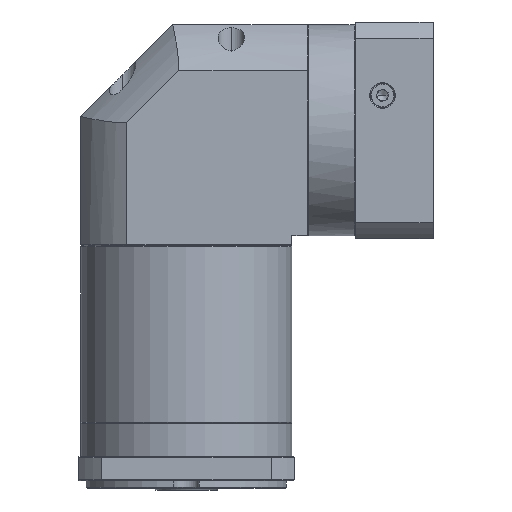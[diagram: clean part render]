
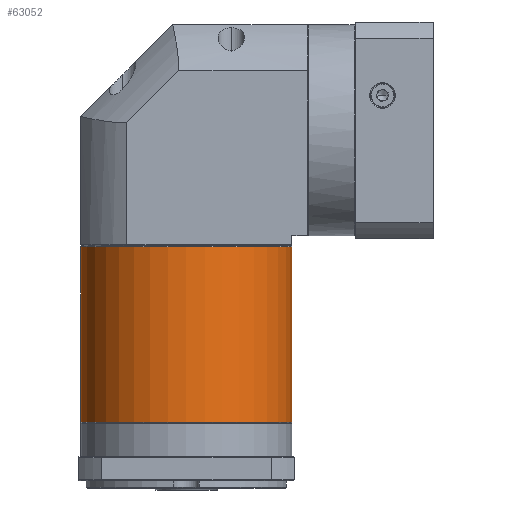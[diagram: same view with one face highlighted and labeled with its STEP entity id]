
A CAD part, front view. The second image highlights one B-rep face of the part: STEP entity #63052.
In plain terms, the highlighted cylindrical face has radius 57.5 mm (diameter 115 mm), a partial arc.
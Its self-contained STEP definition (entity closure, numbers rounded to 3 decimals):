
#3833 = DIRECTION ( 'NONE',  ( 0., 0., -1. ) ) ;
#4235 = CYLINDRICAL_SURFACE ( 'NONE', #99347, 57.5 ) ;
#5245 = ORIENTED_EDGE ( 'NONE', *, *, #46861, .T. ) ;
#7678 = VECTOR ( 'NONE', #105373, 1000. ) ;
#14977 = ORIENTED_EDGE ( 'NONE', *, *, #86398, .T. ) ;
#23151 = DIRECTION ( 'NONE',  ( -1., 0., 0. ) ) ;
#28302 = DIRECTION ( 'NONE',  ( -1., 0., 0. ) ) ;
#29166 = LINE ( 'NONE', #59874, #55589 ) ;
#30092 = VERTEX_POINT ( 'NONE', #54989 ) ;
#30505 = CARTESIAN_POINT ( 'NONE',  ( -17.638, 57.32, -60.85 ) ) ;
#31262 = DIRECTION ( 'NONE',  ( 0., 0., -1. ) ) ;
#32256 = CIRCLE ( 'NONE', #48821, 57.5 ) ;
#32554 = ORIENTED_EDGE ( 'NONE', *, *, #44404, .T. ) ;
#34238 = VERTEX_POINT ( 'NONE', #30505 ) ;
#35656 = VERTEX_POINT ( 'NONE', #92849 ) ;
#42091 = CARTESIAN_POINT ( 'NONE',  ( 39.862, 57.32, -156.562 ) ) ;
#43450 = CARTESIAN_POINT ( 'NONE',  ( 39.862, -0.18, -60.85 ) ) ;
#44404 = EDGE_CURVE ( 'NONE', #35656, #80394, #106988, .T. ) ;
#46861 = EDGE_CURVE ( 'NONE', #80394, #34238, #32256, .T. ) ;
#48821 = AXIS2_PLACEMENT_3D ( 'NONE', #123210, #53075, #23151 ) ;
#52683 = LINE ( 'NONE', #126092, #7678 ) ;
#53075 = DIRECTION ( 'NONE',  ( 0., 0., -1. ) ) ;
#54938 = VERTEX_POINT ( 'NONE', #70280 ) ;
#54989 = CARTESIAN_POINT ( 'NONE',  ( -17.638, 57.32, -156.562 ) ) ;
#55589 = VECTOR ( 'NONE', #31262, 1000. ) ;
#59874 = CARTESIAN_POINT ( 'NONE',  ( -17.638, 57.32, -60.35 ) ) ;
#63052 = ADVANCED_FACE ( 'NONE', ( #64891 ), #4235, .T. ) ;
#64891 = FACE_OUTER_BOUND ( 'NONE', #89247, .T. ) ;
#70280 = CARTESIAN_POINT ( 'NONE',  ( 97.362, 57.32, -156.562 ) ) ;
#71341 = EDGE_CURVE ( 'NONE', #35656, #54938, #52683, .T. ) ;
#74898 = DIRECTION ( 'NONE',  ( -1., 0., 0. ) ) ;
#77884 = AXIS2_PLACEMENT_3D ( 'NONE', #42091, #81123, #120432 ) ;
#80394 = VERTEX_POINT ( 'NONE', #43450 ) ;
#81123 = DIRECTION ( 'NONE',  ( 0., 0., 1. ) ) ;
#83621 = CARTESIAN_POINT ( 'NONE',  ( 39.862, 57.32, -60.85 ) ) ;
#85620 = EDGE_CURVE ( 'NONE', #34238, #30092, #29166, .T. ) ;
#86398 = EDGE_CURVE ( 'NONE', #30092, #54938, #124916, .T. ) ;
#89247 = EDGE_LOOP ( 'NONE', ( #103680, #32554, #5245, #114558, #14977 ) ) ;
#90831 = AXIS2_PLACEMENT_3D ( 'NONE', #83621, #3833, #74898 ) ;
#92849 = CARTESIAN_POINT ( 'NONE',  ( 97.362, 57.32, -60.85 ) ) ;
#99347 = AXIS2_PLACEMENT_3D ( 'NONE', #113715, #126657, #28302 ) ;
#103680 = ORIENTED_EDGE ( 'NONE', *, *, #71341, .F. ) ;
#105373 = DIRECTION ( 'NONE',  ( 0., 0., -1. ) ) ;
#106988 = CIRCLE ( 'NONE', #90831, 57.5 ) ;
#113715 = CARTESIAN_POINT ( 'NONE',  ( 39.862, 57.32, -60.35 ) ) ;
#114558 = ORIENTED_EDGE ( 'NONE', *, *, #85620, .T. ) ;
#120432 = DIRECTION ( 'NONE',  ( -1., 0., 0. ) ) ;
#123210 = CARTESIAN_POINT ( 'NONE',  ( 39.862, 57.32, -60.85 ) ) ;
#124916 = CIRCLE ( 'NONE', #77884, 57.5 ) ;
#126092 = CARTESIAN_POINT ( 'NONE',  ( 97.362, 57.32, -60.35 ) ) ;
#126657 = DIRECTION ( 'NONE',  ( 0., 0., -1. ) ) ;
